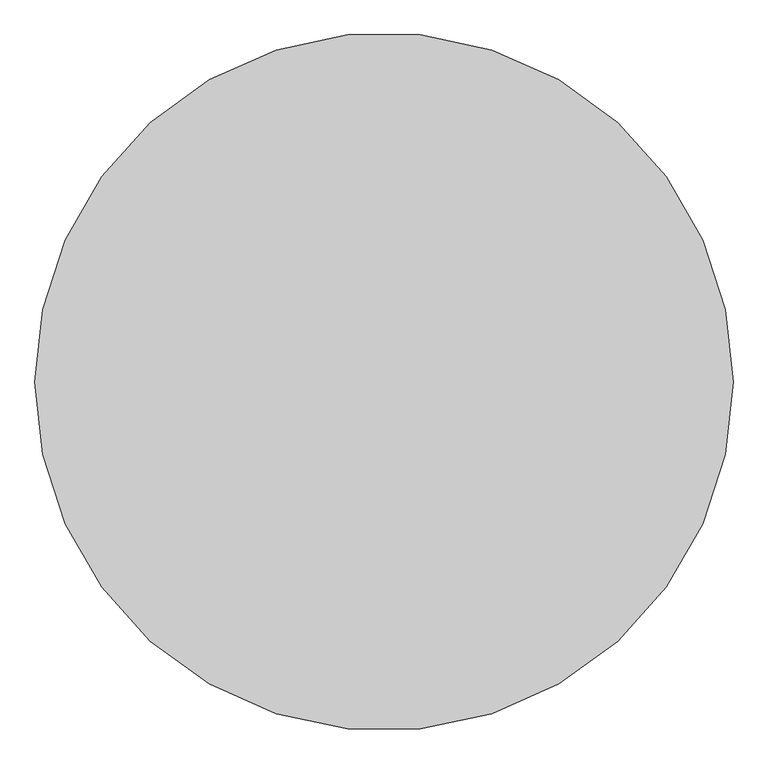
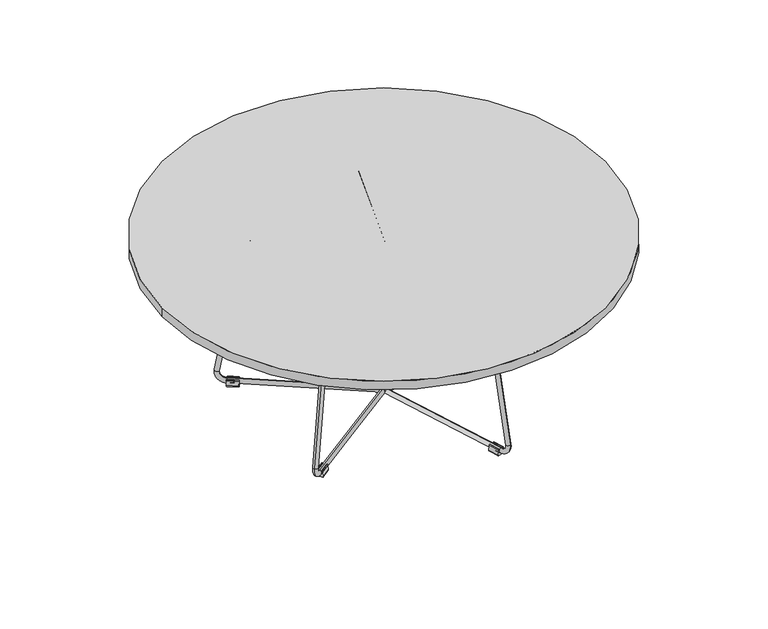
"""IFC4 building model written with IfcOpenShell, lengths in millimetres: furniture geometry, AsteriskR600 : AsteriskR600."""

from ifc_helpers import new_model, si_unit, point, frame, frame_2d, origin, origin_2d, place, context, project, spatial, polyline, circle_curve, ellipse_curve, trimmed, segment, composite_curve, outline, extrude, source, transform, mapped, element, save
from ifc_brep_helpers import plane_surface, cylinder_surface, revolved_surface, advanced_brep


def furniture_99742dc7(model_context):
    return source(origin(), model_context, "Body", "SolidModel", [
        extrude(outline(composite_curve([segment(polyline([(108.4517814, -248.8334777), (83.4865478, -256.9451738), (77.3062079, -237.9240435), (102.2714415, -229.8123474)]), True, "CONTINUOUS"), segment(trimmed(circle_curve(frame_2d((105.3616114, -239.3229125)), 10.0), [point((102.2714415, -229.8123474))], [point((114.8721766, -236.2327426))], False, "CARTESIAN"), True, "CONTINUOUS"), segment(trimmed(circle_curve(frame_2d((105.3616114, -239.3229125)), 10.0), [point((114.8721766, -236.2327426))], [point((108.4517814, -248.8334777))], False, "CARTESIAN"), True, "CONTINUOUS")], self_intersect=False), holes=[composite_curve([segment(trimmed(circle_curve(frame_2d((105.3616114, -239.3229125)), 2.5), [point((104.5890689, -236.9452713))], [point((106.1341539, -241.7005538))], True, "CARTESIAN"), True, "CONTINUOUS"), segment(trimmed(circle_curve(frame_2d((105.3616114, -239.3229125)), 2.5), [point((106.1341539, -241.7005538))], [point((104.5890689, -236.9452713))], True, "CARTESIAN"), True, "CONTINUOUS")], self_intersect=False)]), frame((0.0, 0.0, 428.0), z_axis=(0.0, 0.0, 1.0), x_axis=(1.0, 0.0, 0.0)), (0.0, 0.0, 1.0), 2.0),
        extrude(outline(composite_curve([segment(trimmed(circle_curve(frame_2d((0.0, -1.5)), 1.5), [point((0.1752619, -0.0102742))], [point((1.5, -1.5))], False, "CARTESIAN"), True, "CONTINUOUS"), segment(trimmed(circle_curve(frame_2d((-0.121686, -1.5)), 1.621686), [point((1.5, -1.5))], [point((-0.7291803, -3.0036011))], False, "CARTESIAN"), True, "CONTINUOUS"), segment(trimmed(circle_curve(frame_2d((-4.1625955, -8.1661256)), 6.2), [point((-0.7291803, -3.0036011))], [point((-10.3625955, -8.1661256))], True, "CARTESIAN"), True, "CONTINUOUS"), segment(trimmed(circle_curve(frame_2d((-4.1625955, -8.1661256)), 6.2), [point((-10.3625955, -8.1661256))], [point((-0.7291803, -13.3286503))], True, "CARTESIAN"), True, "CONTINUOUS"), segment(trimmed(circle_curve(frame_2d((-0.121686, -14.8322513)), 1.621686), [point((-0.7291803, -13.3286503))], [point((1.5, -14.8322513))], False, "CARTESIAN"), True, "CONTINUOUS"), segment(trimmed(circle_curve(frame_2d((0.0, -14.8322513)), 1.5), [point((1.5, -14.8322513))], [point((0.1752619, -16.3219772))], False, "CARTESIAN"), True, "CONTINUOUS"), segment(polyline([(0.1752619, -16.3219772), (-13.8247381, -17.969036)]), True, "CONTINUOUS"), segment(trimmed(circle_curve(frame_2d((-14.0, -16.4793102)), 1.5), [point((-13.8247381, -17.969036))], [point((-15.5, -16.4793102))], False, "CARTESIAN"), True, "CONTINUOUS"), segment(polyline([(-15.5, -16.4793102), (-15.5, 0.1470588)]), True, "CONTINUOUS"), segment(trimmed(circle_curve(frame_2d((-14.0, 0.1470588)), 1.5), [point((-15.5, 0.1470588))], [point((-13.8247381, 1.6367847))], False, "CARTESIAN"), True, "CONTINUOUS"), segment(polyline([(-13.8247381, 1.6367847), (0.1752619, -0.0102742)]), True, "CONTINUOUS")], self_intersect=False)), frame((122.1546943, -349.5273538, 15.5), z_axis=(-0.30901699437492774, 0.95105651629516, 0.0), x_axis=(0.0, 0.0, 1.0)), (0.0, 0.0, 1.0), 30.0),
        advanced_brep(
        [(0.0, 0.0, 417.4625955), (0.0, 0.0, 429.8625955), (94.4728272, -290.757465, 417.4625955), (94.4728272, -290.757465, 429.8625955), (103.5319562, -318.6385973, 405.2635865), (99.7583593, -307.0246602, 403.1103491), (119.6507417, -368.247118, 38.0323479), (123.4243386, -379.8610551, 40.1855853), (114.3364839, -351.8915143, 5.1374045), (114.3364839, -351.8915143, 17.5374045), (0.0, 0.0, 17.5374045), (0.0, 0.0, 5.1374045)],
        [
            (0, 1, circle_curve(frame((0.0, 0.0, 423.6625955), z_axis=(-0.30901699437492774, 0.95105651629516, 0.0), x_axis=(0.0, 0.0, 1.0)), 6.2)),
            (1, 0, circle_curve(frame((0.0, 0.0, 423.6625955), z_axis=(-0.30901699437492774, 0.95105651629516, 0.0), x_axis=(0.0, 0.0, 1.0)), 6.2)),
            (0, 2),
            (2, 3, circle_curve(frame((94.4728272, -290.757465, 423.6625955), z_axis=(-0.30901699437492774, 0.95105651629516, 0.0), x_axis=(0.0, 0.0, 1.0)), 6.2)),
            (3, 1),
            (3, 2, circle_curve(frame((94.4728272, -290.757465, 423.6625955), z_axis=(-0.30901699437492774, 0.95105651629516, 0.0), x_axis=(0.0, 0.0, 1.0)), 6.2)),
            (4, 3, circle_curve(frame((94.4728272, -290.757465, 400.0943923), z_axis=(-0.95105651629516, -0.30901699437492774, 0.0), x_axis=(0.0, 0.0, 1.0)), 29.7682033)),
            (2, 5, circle_curve(frame((94.4728272, -290.757465, 400.0943923), z_axis=(0.95105651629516, 0.30901699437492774, 0.0), x_axis=(0.0, 0.0, 1.0)), 17.3682033)),
            (5, 4, circle_curve(frame((101.6451578, -312.8316287, 404.1869678), z_axis=(-0.053660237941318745, 0.16514923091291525, 0.9848077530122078), x_axis=(0.3043223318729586, -0.9366078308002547, 0.17364817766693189)), 6.2)),
            (4, 5, circle_curve(frame((101.6451578, -312.8316287, 404.1869678), z_axis=(-0.0536602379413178, 0.16514923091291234, 0.9848077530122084), x_axis=(0.30432233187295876, -0.9366078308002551, 0.17364817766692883)), 6.2)),
            (5, 6),
            (6, 7, circle_curve(frame((121.5375402, -374.0540866, 39.1089666), z_axis=(-0.05366023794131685, 0.1651492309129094, 0.9848077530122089), x_axis=(0.304322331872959, -0.9366078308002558, 0.17364817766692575)), 6.2)),
            (7, 4),
            (7, 6, circle_curve(frame((121.5375402, -374.0540866, 39.1089666), z_axis=(-0.05366023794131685, 0.1651492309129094, 0.9848077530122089), x_axis=(0.304322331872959, -0.9366078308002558, 0.17364817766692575)), 6.2)),
            (8, 7, circle_curve(frame((114.3364839, -351.8915143, 35.0), z_axis=(-0.95105651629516, -0.30901699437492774, 0.0), x_axis=(0.30432233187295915, -0.9366078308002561, 0.17364817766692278)), 29.8625955)),
            (6, 9, circle_curve(frame((114.3364839, -351.8915143, 35.0), z_axis=(0.95105651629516, 0.30901699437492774, 0.0), x_axis=(0.30432233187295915, -0.9366078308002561, 0.17364817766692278)), 17.4625955)),
            (9, 8, circle_curve(frame((114.3364839, -351.8915143, 11.3374045), z_axis=(0.30901699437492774, -0.9510565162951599, 0.0), x_axis=(0.0, 0.0, -0.9999999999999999)), 6.2)),
            (8, 9, circle_curve(frame((114.3364839, -351.8915143, 11.3374045), z_axis=(0.30901699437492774, -0.9510565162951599, 0.0), x_axis=(0.0, 0.0, -1.0)), 6.2)),
            (10, 11, circle_curve(frame((0.0, 0.0, 11.3374045), z_axis=(-0.30901699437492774, 0.95105651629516, 0.0), x_axis=(0.0, 0.0, -1.0)), 6.2)),
            (11, 10, circle_curve(frame((0.0, 0.0, 11.3374045), z_axis=(-0.30901699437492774, 0.95105651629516, 0.0), x_axis=(0.0, 0.0, -1.0)), 6.2)),
            (9, 10),
            (11, 8),
        ],
        [
            plane_surface(frame((0.0, 0.0, 430.0), z_axis=(-0.30901699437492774, 0.95105651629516, 0.0), x_axis=(-0.95105651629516, -0.30901699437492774, 0.0))),
            cylinder_surface(frame((0.0, 0.0, 423.6625955), z_axis=(-0.30901699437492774, 0.95105651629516, 0.0), x_axis=(0.0, 0.0, 1.0)), 6.2),
            revolved_surface(trimmed(ellipse_curve(frame((94.4728272, -290.757465, 423.6625955), z_axis=(-0.30901699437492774, 0.95105651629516, 0.0), x_axis=(0.0, 0.0, 1.0)), 6.2, 6.2), [point((94.4728272, -290.757465, 417.4625955))], [point((94.4728272, -290.757465, 429.8625955))], True, "CARTESIAN"), (94.4728272, -290.757465, 400.0943923), (0.95105651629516, 0.30901699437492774, 0.0)),
            revolved_surface(trimmed(ellipse_curve(frame((94.4728272, -290.757465, 423.6625955), z_axis=(-0.30901699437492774, 0.95105651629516, 0.0), x_axis=(0.0, 0.0, 1.0)), 6.2, 6.2), [point((94.4728272, -290.757465, 429.8625955))], [point((94.4728272, -290.757465, 417.4625955))], True, "CARTESIAN"), (94.4728272, -290.757465, 400.0943923), (0.95105651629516, 0.30901699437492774, 0.0)),
            cylinder_surface(frame((101.6451578, -312.8316287, 404.1869678), z_axis=(-0.05366023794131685, 0.1651492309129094, 0.9848077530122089), x_axis=(0.304322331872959, -0.9366078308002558, 0.17364817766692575)), 6.2),
            revolved_surface(trimmed(ellipse_curve(frame((121.5375402, -374.0540866, 39.1089666), z_axis=(-0.05366023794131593, 0.1651492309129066, 0.9848077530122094), x_axis=(0.30432233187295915, -0.9366078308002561, 0.17364817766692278)), 6.2, 6.2), [point((119.6507417, -368.247118, 38.0323479))], [point((123.4243386, -379.8610551, 40.1855853))], True, "CARTESIAN"), (114.3364839, -351.8915143, 35.0), (0.95105651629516, 0.30901699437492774, 0.0)),
            revolved_surface(trimmed(ellipse_curve(frame((121.5375402, -374.0540866, 39.1089666), z_axis=(-0.05366023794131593, 0.1651492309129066, 0.9848077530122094), x_axis=(0.30432233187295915, -0.9366078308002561, 0.17364817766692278)), 6.2, 6.2), [point((123.4243386, -379.8610551, 40.1855853))], [point((119.6507417, -368.247118, 38.0323479))], True, "CARTESIAN"), (114.3364839, -351.8915143, 35.0), (0.95105651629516, 0.30901699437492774, 0.0)),
            plane_surface(frame((0.0, 0.0, 5.0), z_axis=(-0.30901699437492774, 0.95105651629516, 0.0), x_axis=(-0.95105651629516, -0.30901699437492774, 0.0))),
            cylinder_surface(frame((114.3364839, -351.8915143, 11.3374045), z_axis=(0.30901699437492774, -0.95105651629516, 0.0), x_axis=(0.0, 0.0, -1.0)), 6.2),
        ],
        [
            (0, [[1, 2]]),
            (1, [[-1, 3, 4, 5]]),
            (1, [[-2, -5, 6, -3]]),
            (2, [[7, -4, 8, 9]]),
            (3, [[-8, -6, -7, 10]]),
            (4, [[-9, 11, 12, 13]]),
            (4, [[-10, -13, 14, -11]]),
            (5, [[15, -12, 16, 17]]),
            (6, [[-16, -14, -15, 18]]),
            (7, [[19, 20]]),
            (8, [[-17, 21, -20, 22]]),
            (8, [[-18, -22, -19, -21]]),
        ],
    ),
        extrude(outline(composite_curve([segment(polyline([(-203.1412569, -180.0375468), (-218.5706198, -158.8008507), (-202.3902799, -147.0451456), (-186.960917, -168.2818417)]), True, "CONTINUOUS"), segment(trimmed(circle_curve(frame_2d((-195.051087, -174.1596942)), 10.0), [point((-186.960917, -168.2818417))], [point((-189.1732345, -182.2498642))], False, "CARTESIAN"), True, "CONTINUOUS"), segment(trimmed(circle_curve(frame_2d((-195.051087, -174.1596942)), 10.0), [point((-189.1732345, -182.2498642))], [point((-203.1412569, -180.0375468))], False, "CARTESIAN"), True, "CONTINUOUS")], self_intersect=False), holes=[composite_curve([segment(trimmed(circle_curve(frame_2d((-195.051087, -174.1596942)), 2.5), [point((-193.0285445, -172.6902311))], [point((-197.0736295, -175.6291574))], True, "CARTESIAN"), True, "CONTINUOUS"), segment(trimmed(circle_curve(frame_2d((-195.051087, -174.1596942)), 2.5), [point((-197.0736295, -175.6291574))], [point((-193.0285445, -172.6902311))], True, "CARTESIAN"), True, "CONTINUOUS")], self_intersect=False)]), frame((0.0, 0.0, 428.0), z_axis=(0.0, 0.0, 1.0), x_axis=(1.0, 0.0, 0.0)), (0.0, 0.0, 1.0), 2.0),
        extrude(outline(composite_curve([segment(trimmed(circle_curve(frame_2d((0.0, -1.5)), 1.5), [point((0.1752619, -0.0102741))], [point((1.5, -1.5))], False, "CARTESIAN"), True, "CONTINUOUS"), segment(trimmed(circle_curve(frame_2d((-0.121686, -1.5)), 1.621686), [point((1.5, -1.5))], [point((-0.7291803, -3.0036011))], False, "CARTESIAN"), True, "CONTINUOUS"), segment(trimmed(circle_curve(frame_2d((-4.1625955, -8.1661256)), 6.2), [point((-0.7291803, -3.0036011))], [point((-10.3625955, -8.1661256))], True, "CARTESIAN"), True, "CONTINUOUS"), segment(trimmed(circle_curve(frame_2d((-4.1625955, -8.1661256)), 6.2), [point((-10.3625955, -8.1661256))], [point((-0.7291803, -13.3286502))], True, "CARTESIAN"), True, "CONTINUOUS"), segment(trimmed(circle_curve(frame_2d((-0.121686, -14.8322513)), 1.621686), [point((-0.7291803, -13.3286502))], [point((1.5, -14.8322513))], False, "CARTESIAN"), True, "CONTINUOUS"), segment(trimmed(circle_curve(frame_2d((0.0, -14.8322513)), 1.5), [point((1.5, -14.8322513))], [point((0.1752619, -16.3219772))], False, "CARTESIAN"), True, "CONTINUOUS"), segment(polyline([(0.1752619, -16.3219772), (-13.8247381, -17.969036)]), True, "CONTINUOUS"), segment(trimmed(circle_curve(frame_2d((-14.0, -16.4793101)), 1.5), [point((-13.8247381, -17.969036))], [point((-15.5, -16.4793101))], False, "CARTESIAN"), True, "CONTINUOUS"), segment(polyline([(-15.5, -16.4793101), (-15.5, 0.1470588)]), True, "CONTINUOUS"), segment(trimmed(circle_curve(frame_2d((-14.0, 0.1470588)), 1.5), [point((-15.5, 0.1470588))], [point((-13.8247381, 1.6367847))], False, "CARTESIAN"), True, "CONTINUOUS"), segment(polyline([(-13.8247381, 1.6367847), (0.1752619, -0.0102741)]), True, "CONTINUOUS")], self_intersect=False)), frame((-294.672391, -224.1859103, 15.5), z_axis=(0.8090169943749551, 0.5877852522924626, 0.0), x_axis=(0.0, 0.0, 1.0)), (0.0, 0.0, 1.0), 30.0),
        advanced_brep(
        [(0.0, 0.0, 417.4625955), (0.0, 0.0, 429.8625955), (-247.3330726, -179.6979959, 417.4625955), (-247.3330726, -179.6979959, 429.8625955), (-271.0501804, -196.9294833, 405.2635865), (-261.1707754, -189.7516754, 403.1103491), (-313.2497086, -227.5892352, 38.0323479), (-323.1291136, -234.7670431, 40.1855853), (-299.3368011, -217.4809162, 5.1374045), (-299.3368011, -217.4809162, 17.5374045), (0.0, 0.0, 17.5374045), (0.0, 0.0, 5.1374045)],
        [
            (0, 1, circle_curve(frame((0.0, 0.0, 423.6625955), z_axis=(0.8090169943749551, 0.5877852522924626, 0.0), x_axis=(0.0, 0.0, 1.0)), 6.2)),
            (1, 0, circle_curve(frame((0.0, 0.0, 423.6625955), z_axis=(0.8090169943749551, 0.5877852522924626, 0.0), x_axis=(0.0, 0.0, 1.0)), 6.2)),
            (0, 2),
            (2, 3, circle_curve(frame((-247.3330726, -179.6979959, 423.6625955), z_axis=(0.8090169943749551, 0.5877852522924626, 0.0), x_axis=(0.0, 0.0, 1.0)), 6.2)),
            (3, 1),
            (3, 2, circle_curve(frame((-247.3330726, -179.6979959, 423.6625955), z_axis=(0.8090169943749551, 0.5877852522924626, 0.0), x_axis=(0.0, 0.0, 1.0)), 6.2)),
            (4, 3, circle_curve(frame((-247.3330726, -179.6979959, 400.0943923), z_axis=(-0.5877852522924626, 0.8090169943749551, 0.0), x_axis=(0.0, 0.0, 1.0)), 29.7682033)),
            (2, 5, circle_curve(frame((-247.3330726, -179.6979959, 400.0943923), z_axis=(0.5877852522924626, -0.8090169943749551, 0.0), x_axis=(0.0, 0.0, 1.0)), 17.3682033)),
            (5, 4, circle_curve(frame((-266.1104779, -193.3405793, 404.1869678), z_axis=(0.14048432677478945, 0.10206783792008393, 0.9848077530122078), x_axis=(-0.7967262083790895, -0.5788554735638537, 0.17364817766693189)), 6.2)),
            (4, 5, circle_curve(frame((-266.1104779, -193.3405793, 404.1869678), z_axis=(0.14048432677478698, 0.10206783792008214, 0.9848077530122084), x_axis=(-0.7967262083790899, -0.578855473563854, 0.17364817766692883)), 6.2)),
            (5, 6),
            (6, 7, circle_curve(frame((-318.1894111, -231.1781391, 39.1089666), z_axis=(0.14048432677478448, 0.10206783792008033, 0.9848077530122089), x_axis=(-0.7967262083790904, -0.5788554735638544, 0.17364817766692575)), 6.2)),
            (7, 4),
            (7, 6, circle_curve(frame((-318.1894111, -231.1781391, 39.1089666), z_axis=(0.14048432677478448, 0.10206783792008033, 0.9848077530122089), x_axis=(-0.7967262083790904, -0.5788554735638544, 0.17364817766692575)), 6.2)),
            (8, 7, circle_curve(frame((-299.3368011, -217.4809162, 35.0), z_axis=(-0.5877852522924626, 0.8090169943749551, 0.0), x_axis=(-0.7967262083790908, -0.5788554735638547, 0.17364817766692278)), 29.8625955)),
            (6, 9, circle_curve(frame((-299.3368011, -217.4809162, 35.0), z_axis=(0.5877852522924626, -0.8090169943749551, 0.0), x_axis=(-0.7967262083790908, -0.5788554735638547, 0.17364817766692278)), 17.4625955)),
            (9, 8, circle_curve(frame((-299.3368011, -217.4809162, 11.3374045), z_axis=(-0.8090169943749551, -0.5877852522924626, 0.0), x_axis=(0.0, 0.0, -0.9999999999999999)), 6.2)),
            (8, 9, circle_curve(frame((-299.3368011, -217.4809162, 11.3374045), z_axis=(-0.8090169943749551, -0.5877852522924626, 0.0), x_axis=(0.0, 0.0, -1.0)), 6.2)),
            (10, 11, circle_curve(frame((0.0, 0.0, 11.3374045), z_axis=(0.8090169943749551, 0.5877852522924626, 0.0), x_axis=(0.0, 0.0, -1.0)), 6.2)),
            (11, 10, circle_curve(frame((0.0, 0.0, 11.3374045), z_axis=(0.8090169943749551, 0.5877852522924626, 0.0), x_axis=(0.0, 0.0, -1.0)), 6.2)),
            (9, 10),
            (11, 8),
        ],
        [
            plane_surface(frame((0.0, 0.0, 430.0), z_axis=(0.8090169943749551, 0.5877852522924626, 0.0), x_axis=(-0.5877852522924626, 0.8090169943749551, 0.0))),
            cylinder_surface(frame((0.0, 0.0, 423.6625955), z_axis=(0.8090169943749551, 0.5877852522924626, 0.0), x_axis=(0.0, 0.0, 1.0)), 6.2),
            revolved_surface(trimmed(ellipse_curve(frame((-247.3330726, -179.6979959, 423.6625955), z_axis=(0.8090169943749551, 0.5877852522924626, 0.0), x_axis=(0.0, 0.0, 1.0)), 6.2, 6.2), [point((-247.3330726, -179.6979959, 417.4625955))], [point((-247.3330726, -179.6979959, 429.8625955))], True, "CARTESIAN"), (-247.3330726, -179.6979959, 400.0943923), (0.5877852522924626, -0.8090169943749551, 0.0)),
            revolved_surface(trimmed(ellipse_curve(frame((-247.3330726, -179.6979959, 423.6625955), z_axis=(0.8090169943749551, 0.5877852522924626, 0.0), x_axis=(0.0, 0.0, 1.0)), 6.2, 6.2), [point((-247.3330726, -179.6979959, 429.8625955))], [point((-247.3330726, -179.6979959, 417.4625955))], True, "CARTESIAN"), (-247.3330726, -179.6979959, 400.0943923), (0.5877852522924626, -0.8090169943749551, 0.0)),
            cylinder_surface(frame((-266.1104779, -193.3405793, 404.1869678), z_axis=(0.14048432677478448, 0.10206783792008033, 0.9848077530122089), x_axis=(-0.7967262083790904, -0.5788554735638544, 0.17364817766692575)), 6.2),
            revolved_surface(trimmed(ellipse_curve(frame((-318.1894111, -231.1781391, 39.1089666), z_axis=(0.14048432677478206, 0.10206783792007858, 0.9848077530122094), x_axis=(-0.7967262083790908, -0.5788554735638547, 0.17364817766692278)), 6.2, 6.2), [point((-313.2497086, -227.5892352, 38.0323479))], [point((-323.1291136, -234.7670431, 40.1855853))], True, "CARTESIAN"), (-299.3368011, -217.4809162, 35.0), (0.5877852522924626, -0.8090169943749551, 0.0)),
            revolved_surface(trimmed(ellipse_curve(frame((-318.1894111, -231.1781391, 39.1089666), z_axis=(0.14048432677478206, 0.10206783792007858, 0.9848077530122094), x_axis=(-0.7967262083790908, -0.5788554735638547, 0.17364817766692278)), 6.2, 6.2), [point((-323.1291136, -234.7670431, 40.1855853))], [point((-313.2497086, -227.5892352, 38.0323479))], True, "CARTESIAN"), (-299.3368011, -217.4809162, 35.0), (0.5877852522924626, -0.8090169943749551, 0.0)),
            plane_surface(frame((0.0, 0.0, 5.0), z_axis=(0.8090169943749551, 0.5877852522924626, 0.0), x_axis=(-0.5877852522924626, 0.8090169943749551, 0.0))),
            cylinder_surface(frame((-299.3368011, -217.4809162, 11.3374045), z_axis=(-0.8090169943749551, -0.5877852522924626, 0.0), x_axis=(0.0, 0.0, -1.0)), 6.2),
        ],
        [
            (0, [[1, 2]]),
            (1, [[-1, 3, 4, 5]]),
            (1, [[-2, -5, 6, -3]]),
            (2, [[7, -4, 8, 9]]),
            (3, [[-8, -6, -7, 10]]),
            (4, [[-9, 11, 12, 13]]),
            (4, [[-10, -13, 14, -11]]),
            (5, [[15, -12, 16, 17]]),
            (6, [[-16, -14, -15, 18]]),
            (7, [[19, 20]]),
            (8, [[-17, 21, -20, 22]]),
            (8, [[-18, -22, -19, -21]]),
        ],
    ),
        extrude(outline(composite_curve([segment(polyline([(-233.9999827, 137.5641546), (-218.5706198, 158.8008507), (-202.3902799, 147.0451456), (-217.8196428, 125.8084495)]), True, "CONTINUOUS"), segment(trimmed(circle_curve(frame_2d((-225.9098127, 131.686302)), 10.0), [point((-217.8196428, 125.8084495))], [point((-231.7876653, 123.5961321))], False, "CARTESIAN"), True, "CONTINUOUS"), segment(trimmed(circle_curve(frame_2d((-225.9098127, 131.686302)), 10.0), [point((-231.7876653, 123.5961321))], [point((-233.9999827, 137.5641546))], False, "CARTESIAN"), True, "CONTINUOUS")], self_intersect=False), holes=[composite_curve([segment(trimmed(circle_curve(frame_2d((-225.9098127, 131.686302)), 2.5), [point((-223.8872702, 130.2168389))], [point((-227.9323552, 133.1557652))], True, "CARTESIAN"), True, "CONTINUOUS"), segment(trimmed(circle_curve(frame_2d((-225.9098127, 131.686302)), 2.5), [point((-227.9323552, 133.1557652))], [point((-223.8872702, 130.2168389))], True, "CARTESIAN"), True, "CONTINUOUS")], self_intersect=False)]), frame((0.0, 0.0, 428.0), z_axis=(0.0, 0.0, 1.0), x_axis=(1.0, 0.0, 0.0)), (0.0, 0.0, 1.0), 2.0),
        extrude(outline(composite_curve([segment(polyline([(-0.1752619, -0.010274), (13.8247381, 1.6367848)]), True, "CONTINUOUS"), segment(trimmed(circle_curve(frame_2d((14.0, 0.1470588)), 1.5), [point((13.8247381, 1.6367848))], [point((15.5, 0.1470588))], False, "CARTESIAN"), True, "CONTINUOUS"), segment(polyline([(15.5, 0.1470588), (15.5, -16.4793101)]), True, "CONTINUOUS"), segment(trimmed(circle_curve(frame_2d((14.0, -16.4793101)), 1.5), [point((15.5, -16.4793101))], [point((13.8247381, -17.969036))], False, "CARTESIAN"), True, "CONTINUOUS"), segment(polyline([(13.8247381, -17.969036), (-0.1752619, -16.3219771)]), True, "CONTINUOUS"), segment(trimmed(circle_curve(frame_2d((0.0, -14.8322512)), 1.5), [point((-0.1752619, -16.3219771))], [point((-1.5, -14.8322512))], False, "CARTESIAN"), True, "CONTINUOUS"), segment(trimmed(circle_curve(frame_2d((0.121686, -14.8322512)), 1.621686), [point((-1.5, -14.8322512))], [point((0.7291803, -13.3286502))], False, "CARTESIAN"), True, "CONTINUOUS"), segment(trimmed(circle_curve(frame_2d((4.1625955, -8.1661256)), 6.2), [point((0.7291803, -13.3286502))], [point((10.3625955, -8.1661256))], True, "CARTESIAN"), True, "CONTINUOUS"), segment(trimmed(circle_curve(frame_2d((4.1625955, -8.1661256)), 6.2), [point((10.3625955, -8.1661256))], [point((0.7291803, -3.0036011))], True, "CARTESIAN"), True, "CONTINUOUS"), segment(trimmed(circle_curve(frame_2d((0.121686, -1.5)), 1.621686), [point((0.7291803, -3.0036011))], [point((-1.5, -1.5))], False, "CARTESIAN"), True, "CONTINUOUS"), segment(trimmed(circle_curve(frame_2d((0.0, -1.5)), 1.5), [point((-1.5, -1.5))], [point((-0.1752619, -0.010274))], False, "CARTESIAN"), True, "CONTINUOUS")], self_intersect=False)), frame((-280.0017376, 193.3392839, 15.5), z_axis=(-0.8090169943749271, 0.587785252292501, 0.0), x_axis=(0.0, 0.0, -1.0)), (0.0, 0.0, 1.0), 30.0),
        advanced_brep(
        [(0.0, 0.0, 417.4625955), (0.0, 0.0, 429.8625955), (-247.3330726, 179.6979959, 417.4625955), (-247.3330726, 179.6979959, 429.8625955), (-271.0501804, 196.9294833, 405.2635865), (-261.1707754, 189.7516754, 403.1103491), (-313.2497086, 227.5892352, 38.0323479), (-323.1291136, 234.7670431, 40.1855853), (-299.3368011, 217.4809162, 5.1374045), (-299.3368011, 217.4809162, 17.5374045), (0.0, 0.0, 17.5374045), (0.0, 0.0, 5.1374045)],
        [
            (0, 1, circle_curve(frame((0.0, 0.0, 423.6625955), z_axis=(0.8090169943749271, -0.587785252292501, 0.0), x_axis=(0.0, 0.0, 1.0)), 6.2)),
            (1, 0, circle_curve(frame((0.0, 0.0, 423.6625955), z_axis=(0.8090169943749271, -0.587785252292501, 0.0), x_axis=(0.0, 0.0, 1.0)), 6.2)),
            (0, 2),
            (2, 3, circle_curve(frame((-247.3330726, 179.6979959, 423.6625955), z_axis=(0.8090169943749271, -0.587785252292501, 0.0), x_axis=(0.0, 0.0, 1.0)), 6.2)),
            (3, 1),
            (3, 2, circle_curve(frame((-247.3330726, 179.6979959, 423.6625955), z_axis=(0.8090169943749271, -0.587785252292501, 0.0), x_axis=(0.0, 0.0, 1.0)), 6.2)),
            (4, 3, circle_curve(frame((-247.3330726, 179.6979959, 400.0943923), z_axis=(0.587785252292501, 0.8090169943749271, 0.0), x_axis=(0.0, 0.0, 1.0)), 29.7682033)),
            (2, 5, circle_curve(frame((-247.3330726, 179.6979959, 400.0943923), z_axis=(-0.587785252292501, -0.8090169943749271, 0.0), x_axis=(0.0, 0.0, 1.0)), 17.3682033)),
            (5, 4, circle_curve(frame((-266.1104779, 193.3405793, 404.1869678), z_axis=(0.1404843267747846, -0.10206783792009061, 0.9848077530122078), x_axis=(-0.7967262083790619, 0.5788554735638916, 0.17364817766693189)), 6.2)),
            (4, 5, circle_curve(frame((-266.1104779, 193.3405793, 404.1869678), z_axis=(0.14048432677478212, -0.10206783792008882, 0.9848077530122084), x_axis=(-0.7967262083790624, 0.5788554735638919, 0.17364817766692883)), 6.2)),
            (5, 6),
            (6, 7, circle_curve(frame((-318.1894111, 231.1781391, 39.1089666), z_axis=(0.14048432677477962, -0.10206783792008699, 0.9848077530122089), x_axis=(-0.7967262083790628, 0.5788554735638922, 0.17364817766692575)), 6.2)),
            (7, 4),
            (7, 6, circle_curve(frame((-318.1894111, 231.1781391, 39.1089666), z_axis=(0.14048432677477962, -0.10206783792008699, 0.9848077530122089), x_axis=(-0.7967262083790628, 0.5788554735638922, 0.17364817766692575)), 6.2)),
            (8, 7, circle_curve(frame((-299.3368011, 217.4809162, 35.0), z_axis=(0.587785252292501, 0.8090169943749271, 0.0), x_axis=(-0.7967262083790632, 0.5788554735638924, 0.17364817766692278)), 29.8625955)),
            (6, 9, circle_curve(frame((-299.3368011, 217.4809162, 35.0), z_axis=(-0.587785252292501, -0.8090169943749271, 0.0), x_axis=(-0.7967262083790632, 0.5788554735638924, 0.17364817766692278)), 17.4625955)),
            (9, 8, circle_curve(frame((-299.3368011, 217.4809162, 11.3374045), z_axis=(-0.809016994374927, 0.5877852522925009, 0.0), x_axis=(0.0, 0.0, -0.9999999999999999)), 6.2)),
            (8, 9, circle_curve(frame((-299.3368011, 217.4809162, 11.3374045), z_axis=(-0.8090169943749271, 0.5877852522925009, 0.0), x_axis=(0.0, 0.0, -1.0)), 6.2)),
            (10, 11, circle_curve(frame((0.0, 0.0, 11.3374045), z_axis=(0.8090169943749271, -0.587785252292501, 0.0), x_axis=(0.0, 0.0, -1.0)), 6.2)),
            (11, 10, circle_curve(frame((0.0, 0.0, 11.3374045), z_axis=(0.8090169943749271, -0.587785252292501, 0.0), x_axis=(0.0, 0.0, -1.0)), 6.2)),
            (9, 10),
            (11, 8),
        ],
        [
            plane_surface(frame((0.0, 0.0, 430.0), z_axis=(0.8090169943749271, -0.587785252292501, 0.0), x_axis=(0.587785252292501, 0.8090169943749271, 0.0))),
            cylinder_surface(frame((0.0, 0.0, 423.6625955), z_axis=(0.8090169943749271, -0.587785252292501, 0.0), x_axis=(0.0, 0.0, 1.0)), 6.2),
            revolved_surface(trimmed(ellipse_curve(frame((-247.3330726, 179.6979959, 423.6625955), z_axis=(0.8090169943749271, -0.587785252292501, 0.0), x_axis=(0.0, 0.0, 1.0)), 6.2, 6.2), [point((-247.3330726, 179.6979959, 417.4625955))], [point((-247.3330726, 179.6979959, 429.8625955))], True, "CARTESIAN"), (-247.3330726, 179.6979959, 400.0943923), (-0.587785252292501, -0.8090169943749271, 0.0)),
            revolved_surface(trimmed(ellipse_curve(frame((-247.3330726, 179.6979959, 423.6625955), z_axis=(0.8090169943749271, -0.587785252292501, 0.0), x_axis=(0.0, 0.0, 1.0)), 6.2, 6.2), [point((-247.3330726, 179.6979959, 429.8625955))], [point((-247.3330726, 179.6979959, 417.4625955))], True, "CARTESIAN"), (-247.3330726, 179.6979959, 400.0943923), (-0.587785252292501, -0.8090169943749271, 0.0)),
            cylinder_surface(frame((-266.1104779, 193.3405793, 404.1869678), z_axis=(0.14048432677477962, -0.10206783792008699, 0.9848077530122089), x_axis=(-0.7967262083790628, 0.5788554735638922, 0.17364817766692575)), 6.2),
            revolved_surface(trimmed(ellipse_curve(frame((-318.1894111, 231.1781391, 39.1089666), z_axis=(0.1404843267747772, -0.10206783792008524, 0.9848077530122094), x_axis=(-0.7967262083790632, 0.5788554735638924, 0.17364817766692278)), 6.2, 6.2), [point((-313.2497086, 227.5892352, 38.0323479))], [point((-323.1291136, 234.7670431, 40.1855853))], True, "CARTESIAN"), (-299.3368011, 217.4809162, 35.0), (-0.587785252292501, -0.8090169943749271, 0.0)),
            revolved_surface(trimmed(ellipse_curve(frame((-318.1894111, 231.1781391, 39.1089666), z_axis=(0.1404843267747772, -0.10206783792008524, 0.9848077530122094), x_axis=(-0.7967262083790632, 0.5788554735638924, 0.17364817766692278)), 6.2, 6.2), [point((-323.1291136, 234.7670431, 40.1855853))], [point((-313.2497086, 227.5892352, 38.0323479))], True, "CARTESIAN"), (-299.3368011, 217.4809162, 35.0), (-0.587785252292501, -0.8090169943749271, 0.0)),
            plane_surface(frame((0.0, 0.0, 5.0), z_axis=(0.8090169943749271, -0.587785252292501, 0.0), x_axis=(0.587785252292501, 0.8090169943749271, 0.0))),
            cylinder_surface(frame((-299.3368011, 217.4809162, 11.3374045), z_axis=(-0.8090169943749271, 0.587785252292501, 0.0), x_axis=(0.0, 0.0, -1.0)), 6.2),
        ],
        [
            (0, [[1, 2]]),
            (1, [[-1, 3, 4, 5]]),
            (1, [[-2, -5, 6, -3]]),
            (2, [[7, -4, 8, 9]]),
            (3, [[-8, -6, -7, 10]]),
            (4, [[-9, 11, 12, 13]]),
            (4, [[-10, -13, 14, -11]]),
            (5, [[15, -12, 16, 17]]),
            (6, [[-16, -14, -15, 18]]),
            (7, [[19, 20]]),
            (8, [[-17, 21, -20, 22]]),
            (8, [[-18, -22, -19, -21]]),
        ],
    ),
        extrude(outline(composite_curve([segment(polyline([(58.5213143, 265.0568699), (83.4865478, 256.9451738), (77.3062079, 237.9240435), (52.3409744, 246.0357396)]), True, "CONTINUOUS"), segment(trimmed(circle_curve(frame_2d((55.4311443, 255.5463047)), 10.0), [point((52.3409744, 246.0357396))], [point((45.9205792, 258.6364747))], False, "CARTESIAN"), True, "CONTINUOUS"), segment(trimmed(circle_curve(frame_2d((55.4311443, 255.5463047)), 10.0), [point((45.9205792, 258.6364747))], [point((58.5213143, 265.0568699))], False, "CARTESIAN"), True, "CONTINUOUS")], self_intersect=False), holes=[composite_curve([segment(trimmed(circle_curve(frame_2d((55.4311443, 255.5463047)), 2.5), [point((54.6586018, 253.1686635))], [point((56.2036868, 257.923946))], True, "CARTESIAN"), True, "CONTINUOUS"), segment(trimmed(circle_curve(frame_2d((55.4311443, 255.5463047)), 2.5), [point((56.2036868, 257.923946))], [point((54.6586018, 253.1686635))], True, "CARTESIAN"), True, "CONTINUOUS")], self_intersect=False)]), frame((0.0, 0.0, 428.0), z_axis=(0.0, 0.0, 1.0), x_axis=(1.0, 0.0, 0.0)), (0.0, 0.0, 1.0), 2.0),
        extrude(outline(composite_curve([segment(polyline([(-0.1752619, -0.0102741), (13.8247381, 1.6367847)]), True, "CONTINUOUS"), segment(trimmed(circle_curve(frame_2d((14.0, 0.1470588)), 1.5), [point((13.8247381, 1.6367847))], [point((15.5, 0.1470588))], False, "CARTESIAN"), True, "CONTINUOUS"), segment(polyline([(15.5, 0.1470588), (15.5, -16.4793101)]), True, "CONTINUOUS"), segment(trimmed(circle_curve(frame_2d((14.0, -16.4793101)), 1.5), [point((15.5, -16.4793101))], [point((13.8247381, -17.969036))], False, "CARTESIAN"), True, "CONTINUOUS"), segment(polyline([(13.8247381, -17.969036), (-0.1752619, -16.3219772)]), True, "CONTINUOUS"), segment(trimmed(circle_curve(frame_2d((0.0, -14.8322513)), 1.5), [point((-0.1752619, -16.3219772))], [point((-1.5, -14.8322513))], False, "CARTESIAN"), True, "CONTINUOUS"), segment(trimmed(circle_curve(frame_2d((0.121686, -14.8322513)), 1.621686), [point((-1.5, -14.8322513))], [point((0.7291803, -13.3286502))], False, "CARTESIAN"), True, "CONTINUOUS"), segment(trimmed(circle_curve(frame_2d((4.1625955, -8.1661256)), 6.2), [point((0.7291803, -13.3286502))], [point((10.3625955, -8.1661256))], True, "CARTESIAN"), True, "CONTINUOUS"), segment(trimmed(circle_curve(frame_2d((4.1625955, -8.1661256)), 6.2), [point((10.3625955, -8.1661256))], [point((0.7291803, -3.0036011))], True, "CARTESIAN"), True, "CONTINUOUS"), segment(trimmed(circle_curve(frame_2d((0.121686, -1.5)), 1.621686), [point((0.7291803, -3.0036011))], [point((-1.5, -1.5))], False, "CARTESIAN"), True, "CONTINUOUS"), segment(trimmed(circle_curve(frame_2d((0.0, -1.5)), 1.5), [point((-1.5, -1.5))], [point((-0.1752619, -0.0102741))], False, "CARTESIAN"), True, "CONTINUOUS")], self_intersect=False)), frame((97.3512904, 326.0426015, 15.5), z_axis=(0.3090169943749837, 0.9510565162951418, 0.0), x_axis=(0.0, 0.0, -1.0)), (0.0, 0.0, 1.0), 30.0),
        advanced_brep(
        [(0.0, 0.0, 417.4625955), (0.0, 0.0, 429.8625955), (94.4728272, 290.757465, 417.4625955), (94.4728272, 290.757465, 429.8625955), (103.5319562, 318.6385973, 405.2635865), (99.7583593, 307.0246602, 403.1103491), (119.6507417, 368.247118, 38.0323479), (123.4243386, 379.8610551, 40.1855853), (114.3364839, 351.8915143, 5.1374045), (114.3364839, 351.8915143, 17.5374045), (0.0, 0.0, 17.5374045), (0.0, 0.0, 5.1374045)],
        [
            (0, 1, circle_curve(frame((0.0, 0.0, 423.6625955), z_axis=(-0.3090169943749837, -0.9510565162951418, 0.0), x_axis=(0.0, 0.0, 1.0)), 6.2)),
            (1, 0, circle_curve(frame((0.0, 0.0, 423.6625955), z_axis=(-0.3090169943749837, -0.9510565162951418, 0.0), x_axis=(0.0, 0.0, 1.0)), 6.2)),
            (0, 2),
            (2, 3, circle_curve(frame((94.4728272, 290.757465, 423.6625955), z_axis=(-0.3090169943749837, -0.9510565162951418, 0.0), x_axis=(0.0, 0.0, 1.0)), 6.2)),
            (3, 1),
            (3, 2, circle_curve(frame((94.4728272, 290.757465, 423.6625955), z_axis=(-0.3090169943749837, -0.9510565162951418, 0.0), x_axis=(0.0, 0.0, 1.0)), 6.2)),
            (4, 3, circle_curve(frame((94.4728272, 290.757465, 400.0943923), z_axis=(0.9510565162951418, -0.3090169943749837, 0.0), x_axis=(0.0, 0.0, 1.0)), 29.7682033)),
            (2, 5, circle_curve(frame((94.4728272, 290.757465, 400.0943923), z_axis=(-0.9510565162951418, 0.3090169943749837, 0.0), x_axis=(0.0, 0.0, 1.0)), 17.3682033)),
            (5, 4, circle_curve(frame((101.6451578, 312.8316287, 404.1869678), z_axis=(-0.053660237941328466, -0.1651492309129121, 0.9848077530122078), x_axis=(0.3043223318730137, 0.9366078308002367, 0.17364817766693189)), 6.2)),
            (4, 5, circle_curve(frame((101.6451578, 312.8316287, 404.1869678), z_axis=(-0.05366023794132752, -0.16514923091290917, 0.9848077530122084), x_axis=(0.3043223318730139, 0.9366078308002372, 0.17364817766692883)), 6.2)),
            (5, 6),
            (6, 7, circle_curve(frame((121.5375402, 374.0540866, 39.1089666), z_axis=(-0.053660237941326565, -0.16514923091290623, 0.9848077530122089), x_axis=(0.3043223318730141, 0.9366078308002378, 0.17364817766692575)), 6.2)),
            (7, 4),
            (7, 6, circle_curve(frame((121.5375402, 374.0540866, 39.1089666), z_axis=(-0.053660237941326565, -0.16514923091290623, 0.9848077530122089), x_axis=(0.3043223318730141, 0.9366078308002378, 0.17364817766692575)), 6.2)),
            (8, 7, circle_curve(frame((114.3364839, 351.8915143, 35.0), z_axis=(0.9510565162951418, -0.3090169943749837, 0.0), x_axis=(0.3043223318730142, 0.9366078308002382, 0.17364817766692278)), 29.8625955)),
            (6, 9, circle_curve(frame((114.3364839, 351.8915143, 35.0), z_axis=(-0.9510565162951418, 0.3090169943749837, 0.0), x_axis=(0.3043223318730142, 0.9366078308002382, 0.17364817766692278)), 17.4625955)),
            (9, 8, circle_curve(frame((114.3364839, 351.8915143, 11.3374045), z_axis=(0.30901699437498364, 0.9510565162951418, 0.0), x_axis=(0.0, 0.0, -0.9999999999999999)), 6.2)),
            (8, 9, circle_curve(frame((114.3364839, 351.8915143, 11.3374045), z_axis=(0.3090169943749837, 0.9510565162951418, 0.0), x_axis=(0.0, 0.0, -1.0)), 6.2)),
            (10, 11, circle_curve(frame((0.0, 0.0, 11.3374045), z_axis=(-0.3090169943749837, -0.9510565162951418, 0.0), x_axis=(0.0, 0.0, -1.0)), 6.2)),
            (11, 10, circle_curve(frame((0.0, 0.0, 11.3374045), z_axis=(-0.3090169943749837, -0.9510565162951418, 0.0), x_axis=(0.0, 0.0, -1.0)), 6.2)),
            (9, 10),
            (11, 8),
        ],
        [
            plane_surface(frame((0.0, 0.0, 430.0), z_axis=(-0.3090169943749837, -0.9510565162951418, 0.0), x_axis=(0.9510565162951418, -0.3090169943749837, 0.0))),
            cylinder_surface(frame((0.0, 0.0, 423.6625955), z_axis=(-0.3090169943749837, -0.9510565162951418, 0.0), x_axis=(0.0, 0.0, 1.0)), 6.2),
            revolved_surface(trimmed(ellipse_curve(frame((94.4728272, 290.757465, 423.6625955), z_axis=(-0.3090169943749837, -0.9510565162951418, 0.0), x_axis=(0.0, 0.0, 1.0)), 6.2, 6.2), [point((94.4728272, 290.757465, 417.4625955))], [point((94.4728272, 290.757465, 429.8625955))], True, "CARTESIAN"), (94.4728272, 290.757465, 400.0943923), (-0.9510565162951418, 0.3090169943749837, 0.0)),
            revolved_surface(trimmed(ellipse_curve(frame((94.4728272, 290.757465, 423.6625955), z_axis=(-0.3090169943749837, -0.9510565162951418, 0.0), x_axis=(0.0, 0.0, 1.0)), 6.2, 6.2), [point((94.4728272, 290.757465, 429.8625955))], [point((94.4728272, 290.757465, 417.4625955))], True, "CARTESIAN"), (94.4728272, 290.757465, 400.0943923), (-0.9510565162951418, 0.3090169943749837, 0.0)),
            cylinder_surface(frame((101.6451578, 312.8316287, 404.1869678), z_axis=(-0.053660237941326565, -0.16514923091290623, 0.9848077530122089), x_axis=(0.3043223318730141, 0.9366078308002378, 0.17364817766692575)), 6.2),
            revolved_surface(trimmed(ellipse_curve(frame((121.5375402, 374.0540866, 39.1089666), z_axis=(-0.05366023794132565, -0.16514923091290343, 0.9848077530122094), x_axis=(0.3043223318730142, 0.9366078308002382, 0.17364817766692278)), 6.2, 6.2), [point((119.6507417, 368.247118, 38.0323479))], [point((123.4243386, 379.8610551, 40.1855853))], True, "CARTESIAN"), (114.3364839, 351.8915143, 35.0), (-0.9510565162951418, 0.3090169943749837, 0.0)),
            revolved_surface(trimmed(ellipse_curve(frame((121.5375402, 374.0540866, 39.1089666), z_axis=(-0.05366023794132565, -0.16514923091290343, 0.9848077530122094), x_axis=(0.3043223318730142, 0.9366078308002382, 0.17364817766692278)), 6.2, 6.2), [point((123.4243386, 379.8610551, 40.1855853))], [point((119.6507417, 368.247118, 38.0323479))], True, "CARTESIAN"), (114.3364839, 351.8915143, 35.0), (-0.9510565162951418, 0.3090169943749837, 0.0)),
            plane_surface(frame((0.0, 0.0, 5.0), z_axis=(-0.3090169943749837, -0.9510565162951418, 0.0), x_axis=(0.9510565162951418, -0.3090169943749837, 0.0))),
            cylinder_surface(frame((114.3364839, 351.8915143, 11.3374045), z_axis=(0.3090169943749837, 0.9510565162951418, 0.0), x_axis=(0.0, 0.0, -1.0)), 6.2),
        ],
        [
            (0, [[1, 2]]),
            (1, [[-1, 3, 4, 5]]),
            (1, [[-2, -5, 6, -3]]),
            (2, [[7, -4, 8, 9]]),
            (3, [[-8, -6, -7, 10]]),
            (4, [[-9, 11, 12, 13]]),
            (4, [[-10, -13, 14, -11]]),
            (5, [[15, -12, 16, 17]]),
            (6, [[-16, -14, -15, 18]]),
            (7, [[19, 20]]),
            (8, [[-17, 21, -20, 22]]),
            (8, [[-18, -22, -19, -21]]),
        ],
    ),
        extrude(outline(composite_curve([segment(polyline([(270.168144, 26.25), (270.168144, 0.0), (250.168144, 0.0), (250.168144, 26.25)]), True, "CONTINUOUS"), segment(trimmed(circle_curve(frame_2d((260.168144, 26.25)), 10.0), [point((250.168144, 26.25))], [point((260.168144, 36.25))], False, "CARTESIAN"), True, "CONTINUOUS"), segment(trimmed(circle_curve(frame_2d((260.168144, 26.25)), 10.0), [point((260.168144, 36.25))], [point((270.168144, 26.25))], False, "CARTESIAN"), True, "CONTINUOUS")], self_intersect=False), holes=[composite_curve([segment(trimmed(circle_curve(frame_2d((260.168144, 26.25)), 2.5), [point((257.668144, 26.25))], [point((262.668144, 26.25))], True, "CARTESIAN"), True, "CONTINUOUS"), segment(trimmed(circle_curve(frame_2d((260.168144, 26.25)), 2.5), [point((262.668144, 26.25))], [point((257.668144, 26.25))], True, "CARTESIAN"), True, "CONTINUOUS")], self_intersect=False)]), frame((0.0, 0.0, 428.0), z_axis=(0.0, 0.0, 1.0), x_axis=(1.0, 0.0, 0.0)), (0.0, 0.0, 1.0), 2.0),
        extrude(outline(composite_curve([segment(polyline([(8.1558515, 15.6752619), (9.8029104, 1.6752619)]), True, "CONTINUOUS"), segment(trimmed(circle_curve(frame_2d((8.3131845, 1.5)), 1.5), [point((9.8029104, 1.6752619))], [point((8.3131845, 0.0))], False, "CARTESIAN"), True, "CONTINUOUS"), segment(polyline([(8.3131845, 0.0), (-8.3131845, 0.0)]), True, "CONTINUOUS"), segment(trimmed(circle_curve(frame_2d((-8.3131845, 1.5)), 1.5), [point((-8.3131845, 0.0))], [point((-9.8029104, 1.6752619))], False, "CARTESIAN"), True, "CONTINUOUS"), segment(polyline([(-9.8029104, 1.6752619), (-8.1558515, 15.6752619)]), True, "CONTINUOUS"), segment(trimmed(circle_curve(frame_2d((-6.6661256, 15.5)), 1.5), [point((-8.1558515, 15.6752619))], [point((-6.6661256, 17.0))], False, "CARTESIAN"), True, "CONTINUOUS"), segment(trimmed(circle_curve(frame_2d((-6.6661256, 15.378314)), 1.621686), [point((-6.6661256, 17.0))], [point((-5.1625246, 14.7708197))], False, "CARTESIAN"), True, "CONTINUOUS"), segment(trimmed(circle_curve(frame_2d((0.0, 11.3374045)), 6.2), [point((-5.1625246, 14.7708197))], [point((0.0, 5.1374045))], True, "CARTESIAN"), True, "CONTINUOUS"), segment(trimmed(circle_curve(frame_2d((0.0, 11.3374045)), 6.2), [point((0.0, 5.1374045))], [point((5.1625246, 14.7708197))], True, "CARTESIAN"), True, "CONTINUOUS"), segment(trimmed(circle_curve(frame_2d((6.6661256, 15.378314)), 1.621686), [point((5.1625246, 14.7708197))], [point((6.6661256, 17.0))], False, "CARTESIAN"), True, "CONTINUOUS"), segment(trimmed(circle_curve(frame_2d((6.6661256, 15.5)), 1.5), [point((6.6661256, 17.0))], [point((8.1558515, 15.6752619))], False, "CARTESIAN"), True, "CONTINUOUS")], self_intersect=False)), frame((340.168144, 0.0, 0.0), z_axis=(1.0, 0.0, 0.0), x_axis=(0.0, 1.0, 0.0)), (0.0, 0.0, 1.0), 30.0),
        advanced_brep(
        [(0.0, 0.0, 417.4625955), (0.0, 0.0, 429.8625955), (305.7204909, 0.0, 417.4625955), (305.7204909, 0.0, 429.8625955), (335.0364482, 0.0, 405.2635865), (322.8248321, 0.0, 403.1103491), (387.1979338, 0.0, 38.0323479), (399.4095499, 0.0, 40.1855853), (370.0006343, 0.0, 5.1374045), (370.0006343, 0.0, 17.5374045), (0.0, 0.0, 17.5374045), (0.0, 0.0, 5.1374045)],
        [
            (0, 1, circle_curve(frame((0.0, 0.0, 423.6625955), z_axis=(-1.0, 0.0, 0.0), x_axis=(0.0, 0.0, 1.0)), 6.2)),
            (1, 0, circle_curve(frame((0.0, 0.0, 423.6625955), z_axis=(-1.0, 0.0, 0.0), x_axis=(0.0, 0.0, 1.0)), 6.2)),
            (0, 2),
            (2, 3, circle_curve(frame((305.7204909, 0.0, 423.6625955), z_axis=(-1.0, 0.0, 0.0), x_axis=(0.0, 0.0, 1.0)), 6.2)),
            (3, 1),
            (3, 2, circle_curve(frame((305.7204909, 0.0, 423.6625955), z_axis=(-1.0, 0.0, 0.0), x_axis=(0.0, 0.0, 1.0)), 6.2)),
            (4, 3, circle_curve(frame((305.7204909, 0.0, 400.0943923), z_axis=(0.0, -1.0, 0.0), x_axis=(0.0, 0.0, 1.0)), 29.7682033)),
            (2, 5, circle_curve(frame((305.7204909, 0.0, 400.0943923), z_axis=(0.0, 1.0, 0.0), x_axis=(0.0, 0.0, 1.0)), 17.3682033)),
            (5, 4, circle_curve(frame((328.9306402, 0.0, 404.1869678), z_axis=(-0.17364817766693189, 0.0, 0.9848077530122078), x_axis=(0.9848077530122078, 0.0, 0.17364817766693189)), 6.2)),
            (4, 5, circle_curve(frame((328.9306402, 0.0, 404.1869678), z_axis=(-0.17364817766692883, 0.0, 0.9848077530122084), x_axis=(0.9848077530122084, 0.0, 0.17364817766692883)), 6.2)),
            (5, 6),
            (6, 7, circle_curve(frame((393.3037418, 0.0, 39.1089666), z_axis=(-0.17364817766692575, 0.0, 0.9848077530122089), x_axis=(0.9848077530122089, 0.0, 0.17364817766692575)), 6.2)),
            (7, 4),
            (7, 6, circle_curve(frame((393.3037418, 0.0, 39.1089666), z_axis=(-0.17364817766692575, 0.0, 0.9848077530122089), x_axis=(0.9848077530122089, 0.0, 0.17364817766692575)), 6.2)),
            (8, 7, circle_curve(frame((370.0006343, 0.0, 35.0), z_axis=(0.0, -1.0, 0.0), x_axis=(0.9848077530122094, 0.0, 0.17364817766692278)), 29.8625955)),
            (6, 9, circle_curve(frame((370.0006343, 0.0, 35.0), z_axis=(0.0, 1.0, 0.0), x_axis=(0.9848077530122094, 0.0, 0.17364817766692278)), 17.4625955)),
            (9, 8, circle_curve(frame((370.0006343, 0.0, 11.3374045), z_axis=(0.9999999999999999, 0.0, 0.0), x_axis=(0.0, 0.0, -0.9999999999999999)), 6.2)),
            (8, 9, circle_curve(frame((370.0006343, 0.0, 11.3374045), z_axis=(1.0, 0.0, 0.0), x_axis=(0.0, 0.0, -1.0)), 6.2)),
            (10, 11, circle_curve(frame((0.0, 0.0, 11.3374045), z_axis=(-1.0, 0.0, 0.0), x_axis=(0.0, 0.0, -1.0)), 6.2)),
            (11, 10, circle_curve(frame((0.0, 0.0, 11.3374045), z_axis=(-1.0, 0.0, 0.0), x_axis=(0.0, 0.0, -1.0)), 6.2)),
            (9, 10),
            (11, 8),
        ],
        [
            plane_surface(frame((0.0, 0.0, 430.0), z_axis=(-1.0, 0.0, 0.0), x_axis=(0.0, -1.0, 0.0))),
            cylinder_surface(frame((0.0, 0.0, 423.6625955), z_axis=(-1.0, 0.0, 0.0), x_axis=(0.0, 0.0, 1.0)), 6.2),
            revolved_surface(trimmed(ellipse_curve(frame((305.7204909, 0.0, 423.6625955), z_axis=(-1.0, 0.0, 0.0), x_axis=(0.0, 0.0, 1.0)), 6.2, 6.2), [point((305.7204909, 0.0, 417.4625955))], [point((305.7204909, 0.0, 429.8625955))], True, "CARTESIAN"), (305.7204909, 0.0, 400.0943923), (0.0, 1.0, 0.0)),
            revolved_surface(trimmed(ellipse_curve(frame((305.7204909, 0.0, 423.6625955), z_axis=(-1.0, 0.0, 0.0), x_axis=(0.0, 0.0, 1.0)), 6.2, 6.2), [point((305.7204909, 0.0, 429.8625955))], [point((305.7204909, 0.0, 417.4625955))], True, "CARTESIAN"), (305.7204909, 0.0, 400.0943923), (0.0, 1.0, 0.0)),
            cylinder_surface(frame((328.9306402, 0.0, 404.1869678), z_axis=(-0.17364817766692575, 0.0, 0.9848077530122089), x_axis=(0.9848077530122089, 0.0, 0.17364817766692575)), 6.2),
            revolved_surface(trimmed(ellipse_curve(frame((393.3037418, 0.0, 39.1089666), z_axis=(-0.17364817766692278, 0.0, 0.9848077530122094), x_axis=(0.9848077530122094, 0.0, 0.17364817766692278)), 6.2, 6.2), [point((387.1979338, 0.0, 38.0323479))], [point((399.4095499, 0.0, 40.1855853))], True, "CARTESIAN"), (370.0006343, 0.0, 35.0), (0.0, 1.0, 0.0)),
            revolved_surface(trimmed(ellipse_curve(frame((393.3037418, 0.0, 39.1089666), z_axis=(-0.17364817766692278, 0.0, 0.9848077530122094), x_axis=(0.9848077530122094, 0.0, 0.17364817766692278)), 6.2, 6.2), [point((399.4095499, 0.0, 40.1855853))], [point((387.1979338, 0.0, 38.0323479))], True, "CARTESIAN"), (370.0006343, 0.0, 35.0), (0.0, 1.0, 0.0)),
            plane_surface(frame((0.0, 0.0, 5.0), z_axis=(-1.0, 0.0, 0.0), x_axis=(0.0, -1.0, 0.0))),
            cylinder_surface(frame((370.0006343, 0.0, 11.3374045), z_axis=(1.0, 0.0, 0.0), x_axis=(0.0, 0.0, -1.0)), 6.2),
        ],
        [
            (0, [[1, 2]]),
            (1, [[-1, 3, 4, 5]]),
            (1, [[-2, -5, 6, -3]]),
            (2, [[7, -4, 8, 9]]),
            (3, [[-8, -6, -7, 10]]),
            (4, [[-9, 11, 12, 13]]),
            (4, [[-10, -13, 14, -11]]),
            (5, [[15, -12, 16, 17]]),
            (6, [[-16, -14, -15, 18]]),
            (7, [[19, 20]]),
            (8, [[-17, 21, -20, 22]]),
            (8, [[-18, -22, -19, -21]]),
        ],
    ),
        extrude(outline(composite_curve([segment(trimmed(circle_curve(origin_2d(), 600.0), [point((-600.0, 0.0))], [point((600.0, 0.0))], False, "CARTESIAN"), True, "CONTINUOUS"), segment(trimmed(circle_curve(origin_2d(), 600.0), [point((600.0, 0.0))], [point((-600.0, 0.0))], False, "CARTESIAN"), True, "CONTINUOUS")], self_intersect=False)), frame((0.0, 0.0, 430.0), z_axis=(0.0, 0.0, 1.0), x_axis=(1.0, 0.0, 0.0)), (0.0, 0.0, 1.0), 25.0),
    ])


if __name__ == "__main__":
    model = new_model("IFC4")
    model_context = context("Model", 3, world=origin())
    ifc_project = project(units=[si_unit("LENGTHUNIT", "METRE", prefix="MILLI")], contexts=[model_context])
    site = spatial("IfcSite", under=ifc_project)
    building = spatial("IfcBuilding", under=site)
    placement = place(None, origin())
    furniture_shape = furniture_99742dc7(model_context)
    element("IfcFurniture", 1, ObjectType="AsteriskR600 : AsteriskR600", at=placement, inside=building, context=model_context, shape_type="MappedRepresentation", body=[
        mapped(furniture_shape, transform((0.0, 0.0, 0.0), x_axis=(1.0, 0.0, 0.0), y_axis=(0.0, 1.0, 0.0), z_axis=(0.0, 0.0, 1.0))),
    ])
    save(model, "model.ifc")
